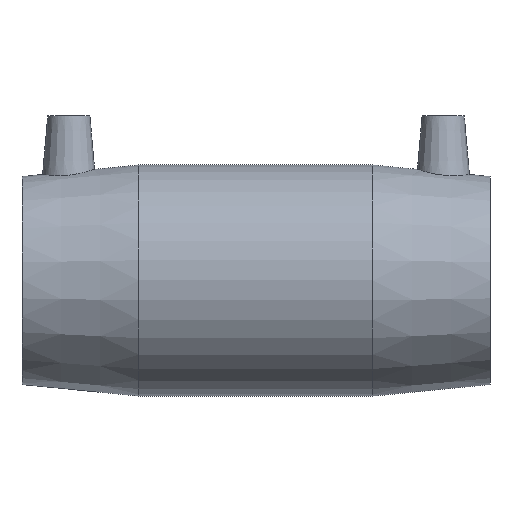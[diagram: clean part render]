
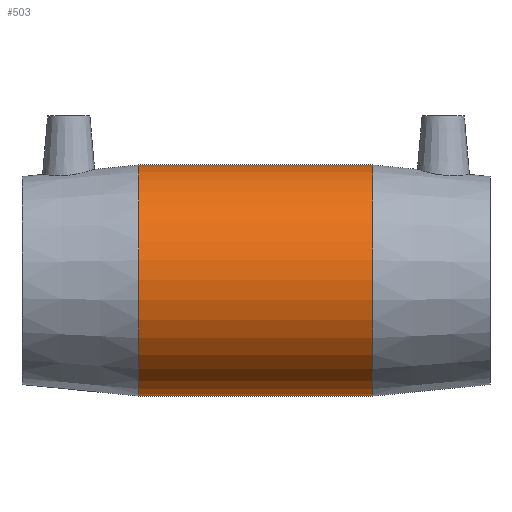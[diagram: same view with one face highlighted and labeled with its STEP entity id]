
A CAD part, top view. The second image highlights one B-rep face of the part: STEP entity #503.
In plain terms, the highlighted cylindrical face has radius 41.021 mm (diameter 82.042 mm), a full revolution.
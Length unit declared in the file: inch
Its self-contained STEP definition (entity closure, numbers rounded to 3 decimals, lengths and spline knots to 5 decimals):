
#26=FACE_BOUND('',#101,.T.);
#64=FACE_OUTER_BOUND('',#100,.T.);
#100=EDGE_LOOP('',(#384,#385,#386,#387,#388,#389));
#101=EDGE_LOOP('',(#390,#391));
#128=B_SPLINE_CURVE_WITH_KNOTS('',3,(#862,#863,#864,#865,#866,#867,#868,
#869,#870,#871,#872,#873,#874,#875,#876,#877,#878,#879),.UNSPECIFIED.,.F.,
 .F.,(4,2,2,2,2,2,2,2,4),(0.,0.60224,1.20449,1.80673,
2.40897,3.00015,3.59133,4.18251,4.77368),
 .UNSPECIFIED.);
#129=B_SPLINE_CURVE_WITH_KNOTS('',3,(#880,#881,#882,#883,#884,#885,#886,
#887,#888,#889,#890,#891,#892,#893,#894,#895,#896,#897,#898,#899,#900,#901,
#902,#903,#904,#905,#906,#907,#908,#909,#910,#911,#912,#913,#914,#915,#916,
#917,#918,#919,#920,#921,#922,#923,#924,#925,#926,#927,#928,#929),
 .UNSPECIFIED.,.F.,.F.,(4,2,2,2,2,2,2,2,2,2,2,2,2,2,2,2,2,2,2,2,2,2,2,2,
4),(4.77368,5.36486,5.95604,6.54722,
7.1384,7.74064,8.34288,8.94513,9.54737,
10.14961,10.75185,11.3541,11.95634,12.54752,
13.1387,13.72987,14.32105,14.91223,15.50341,
16.09459,16.68577,17.28801,17.89025,18.4925,
19.09474),.UNSPECIFIED.);
#142=LINE('',#1054,#160);
#160=VECTOR('',#684,1.615);
#182=CIRCLE('',#567,1.615);
#183=CIRCLE('',#568,1.615);
#184=CIRCLE('',#569,1.615);
#185=CIRCLE('',#570,1.615);
#217=VERTEX_POINT('',#860);
#218=VERTEX_POINT('',#861);
#234=VERTEX_POINT('',#1049);
#235=VERTEX_POINT('',#1050);
#236=VERTEX_POINT('',#1053);
#237=VERTEX_POINT('',#1055);
#270=EDGE_CURVE('',#217,#218,#128,.T.);
#271=EDGE_CURVE('',#218,#217,#129,.T.);
#294=EDGE_CURVE('',#234,#235,#182,.T.);
#295=EDGE_CURVE('',#235,#234,#183,.T.);
#296=EDGE_CURVE('',#235,#236,#142,.T.);
#297=EDGE_CURVE('',#236,#237,#184,.T.);
#298=EDGE_CURVE('',#237,#236,#185,.T.);
#384=ORIENTED_EDGE('',*,*,#294,.F.);
#385=ORIENTED_EDGE('',*,*,#295,.F.);
#386=ORIENTED_EDGE('',*,*,#296,.T.);
#387=ORIENTED_EDGE('',*,*,#297,.T.);
#388=ORIENTED_EDGE('',*,*,#298,.T.);
#389=ORIENTED_EDGE('',*,*,#296,.F.);
#390=ORIENTED_EDGE('',*,*,#270,.T.);
#391=ORIENTED_EDGE('',*,*,#271,.T.);
#482=CYLINDRICAL_SURFACE('',#566,1.615);
#503=ADVANCED_FACE('',(#64,#26),#482,.T.);
#566=AXIS2_PLACEMENT_3D('',#1048,#678,#679);
#567=AXIS2_PLACEMENT_3D('',#1051,#680,#681);
#568=AXIS2_PLACEMENT_3D('',#1052,#682,#683);
#569=AXIS2_PLACEMENT_3D('',#1056,#685,#686);
#570=AXIS2_PLACEMENT_3D('',#1057,#687,#688);
#678=DIRECTION('center_axis',(1.,0.,0.));
#679=DIRECTION('ref_axis',(0.,1.,0.));
#680=DIRECTION('center_axis',(1.,0.,0.));
#681=DIRECTION('ref_axis',(0.,0.,-1.));
#682=DIRECTION('center_axis',(1.,0.,0.));
#683=DIRECTION('ref_axis',(0.,0.,-1.));
#684=DIRECTION('',(-1.,0.,0.));
#685=DIRECTION('center_axis',(1.,0.,0.));
#686=DIRECTION('ref_axis',(0.,0.,-1.));
#687=DIRECTION('center_axis',(1.,0.,0.));
#688=DIRECTION('ref_axis',(0.,0.,-1.));
#860=CARTESIAN_POINT('',(0.,-1.18307,-1.09935));
#861=CARTESIAN_POINT('',(1.18307,0.,-1.615));
#862=CARTESIAN_POINT('Ctrl Pts',(0.,-1.18307,
-1.09935));
#863=CARTESIAN_POINT('Ctrl Pts',(0.07903,-1.18307,-1.09935));
#864=CARTESIAN_POINT('Ctrl Pts',(0.15861,-1.17506,-1.10814));
#865=CARTESIAN_POINT('Ctrl Pts',(0.31385,-1.14343,-1.14075));
#866=CARTESIAN_POINT('Ctrl Pts',(0.38954,-1.11982,-1.16444));
#867=CARTESIAN_POINT('Ctrl Pts',(0.53326,-1.05895,-1.22006));
#868=CARTESIAN_POINT('Ctrl Pts',(0.60143,-1.02164,-1.25195));
#869=CARTESIAN_POINT('Ctrl Pts',(0.72739,-0.93614,-1.3171));
#870=CARTESIAN_POINT('Ctrl Pts',(0.78518,-0.88793,-1.35034));
#871=CARTESIAN_POINT('Ctrl Pts',(0.88699,-0.78613,-1.41199));
#872=CARTESIAN_POINT('Ctrl Pts',(0.935,-0.72886,-1.44283));
#873=CARTESIAN_POINT('Ctrl Pts',(1.02076,-0.60291,-1.49983));
#874=CARTESIAN_POINT('Ctrl Pts',(1.05853,-0.53421,-1.52597));
#875=CARTESIAN_POINT('Ctrl Pts',(1.12001,-0.38915,-1.56924));
#876=CARTESIAN_POINT('Ctrl Pts',(1.14378,-0.31263,-1.58641));
#877=CARTESIAN_POINT('Ctrl Pts',(1.17532,-0.15685,-1.60929));
#878=CARTESIAN_POINT('Ctrl Pts',(1.18307,-0.07758,-1.615));
#879=CARTESIAN_POINT('Ctrl Pts',(1.18307,0.,
-1.615));
#880=CARTESIAN_POINT('Ctrl Pts',(1.18307,0.,
-1.615));
#881=CARTESIAN_POINT('Ctrl Pts',(1.18307,0.07758,-1.615));
#882=CARTESIAN_POINT('Ctrl Pts',(1.17532,0.15685,-1.60929));
#883=CARTESIAN_POINT('Ctrl Pts',(1.14378,0.31263,-1.58641));
#884=CARTESIAN_POINT('Ctrl Pts',(1.12001,0.38915,-1.56924));
#885=CARTESIAN_POINT('Ctrl Pts',(1.05853,0.53421,-1.52597));
#886=CARTESIAN_POINT('Ctrl Pts',(1.02076,0.60291,-1.49983));
#887=CARTESIAN_POINT('Ctrl Pts',(0.935,0.72886,-1.44283));
#888=CARTESIAN_POINT('Ctrl Pts',(0.88699,0.78613,-1.41199));
#889=CARTESIAN_POINT('Ctrl Pts',(0.78518,0.88793,-1.35034));
#890=CARTESIAN_POINT('Ctrl Pts',(0.72739,0.93614,-1.3171));
#891=CARTESIAN_POINT('Ctrl Pts',(0.60143,1.02164,-1.25195));
#892=CARTESIAN_POINT('Ctrl Pts',(0.53326,1.05895,-1.22006));
#893=CARTESIAN_POINT('Ctrl Pts',(0.38954,1.11982,-1.16444));
#894=CARTESIAN_POINT('Ctrl Pts',(0.31385,1.14343,-1.14075));
#895=CARTESIAN_POINT('Ctrl Pts',(0.15861,1.17506,-1.10814));
#896=CARTESIAN_POINT('Ctrl Pts',(0.07903,1.18307,-1.09935));
#897=CARTESIAN_POINT('Ctrl Pts',(-0.07903,1.18307,-1.09935));
#898=CARTESIAN_POINT('Ctrl Pts',(-0.15861,1.17506,-1.10814));
#899=CARTESIAN_POINT('Ctrl Pts',(-0.31385,1.14343,-1.14075));
#900=CARTESIAN_POINT('Ctrl Pts',(-0.38954,1.11982,-1.16444));
#901=CARTESIAN_POINT('Ctrl Pts',(-0.53326,1.05895,-1.22006));
#902=CARTESIAN_POINT('Ctrl Pts',(-0.60143,1.02164,-1.25195));
#903=CARTESIAN_POINT('Ctrl Pts',(-0.72739,0.93614,-1.3171));
#904=CARTESIAN_POINT('Ctrl Pts',(-0.78518,0.88793,-1.35034));
#905=CARTESIAN_POINT('Ctrl Pts',(-0.88699,0.78613,-1.41199));
#906=CARTESIAN_POINT('Ctrl Pts',(-0.935,0.72886,-1.44283));
#907=CARTESIAN_POINT('Ctrl Pts',(-1.02076,0.60291,-1.49983));
#908=CARTESIAN_POINT('Ctrl Pts',(-1.05853,0.53421,-1.52597));
#909=CARTESIAN_POINT('Ctrl Pts',(-1.12001,0.38915,-1.56924));
#910=CARTESIAN_POINT('Ctrl Pts',(-1.14378,0.31263,-1.58641));
#911=CARTESIAN_POINT('Ctrl Pts',(-1.17532,0.15685,-1.60929));
#912=CARTESIAN_POINT('Ctrl Pts',(-1.18307,0.07758,-1.615));
#913=CARTESIAN_POINT('Ctrl Pts',(-1.18307,-0.07758,
-1.615));
#914=CARTESIAN_POINT('Ctrl Pts',(-1.17532,-0.15685,-1.60929));
#915=CARTESIAN_POINT('Ctrl Pts',(-1.14378,-0.31263,-1.58641));
#916=CARTESIAN_POINT('Ctrl Pts',(-1.12001,-0.38915,-1.56924));
#917=CARTESIAN_POINT('Ctrl Pts',(-1.05853,-0.53421,-1.52597));
#918=CARTESIAN_POINT('Ctrl Pts',(-1.02076,-0.60291,-1.49983));
#919=CARTESIAN_POINT('Ctrl Pts',(-0.935,-0.72886,
-1.44283));
#920=CARTESIAN_POINT('Ctrl Pts',(-0.88699,-0.78613,
-1.41199));
#921=CARTESIAN_POINT('Ctrl Pts',(-0.78518,-0.88793,
-1.35034));
#922=CARTESIAN_POINT('Ctrl Pts',(-0.72739,-0.93614,
-1.3171));
#923=CARTESIAN_POINT('Ctrl Pts',(-0.60143,-1.02164,-1.25195));
#924=CARTESIAN_POINT('Ctrl Pts',(-0.53326,-1.05895,-1.22006));
#925=CARTESIAN_POINT('Ctrl Pts',(-0.38954,-1.11982,-1.16444));
#926=CARTESIAN_POINT('Ctrl Pts',(-0.31385,-1.14343,-1.14075));
#927=CARTESIAN_POINT('Ctrl Pts',(-0.15861,-1.17506,-1.10814));
#928=CARTESIAN_POINT('Ctrl Pts',(-0.07903,-1.18307,
-1.09935));
#929=CARTESIAN_POINT('Ctrl Pts',(0.,-1.18307,-1.09935));
#1048=CARTESIAN_POINT('Origin',(0.,0.,0.));
#1049=CARTESIAN_POINT('',(1.635,1.615,0.));
#1050=CARTESIAN_POINT('',(1.635,-1.615,0.));
#1051=CARTESIAN_POINT('Origin',(1.635,0.,0.));
#1052=CARTESIAN_POINT('Origin',(1.635,0.,0.));
#1053=CARTESIAN_POINT('',(-1.635,-1.615,0.));
#1054=CARTESIAN_POINT('',(0.,-1.615,0.));
#1055=CARTESIAN_POINT('',(-1.635,1.615,0.));
#1056=CARTESIAN_POINT('Origin',(-1.635,0.,0.));
#1057=CARTESIAN_POINT('Origin',(-1.635,0.,0.));
